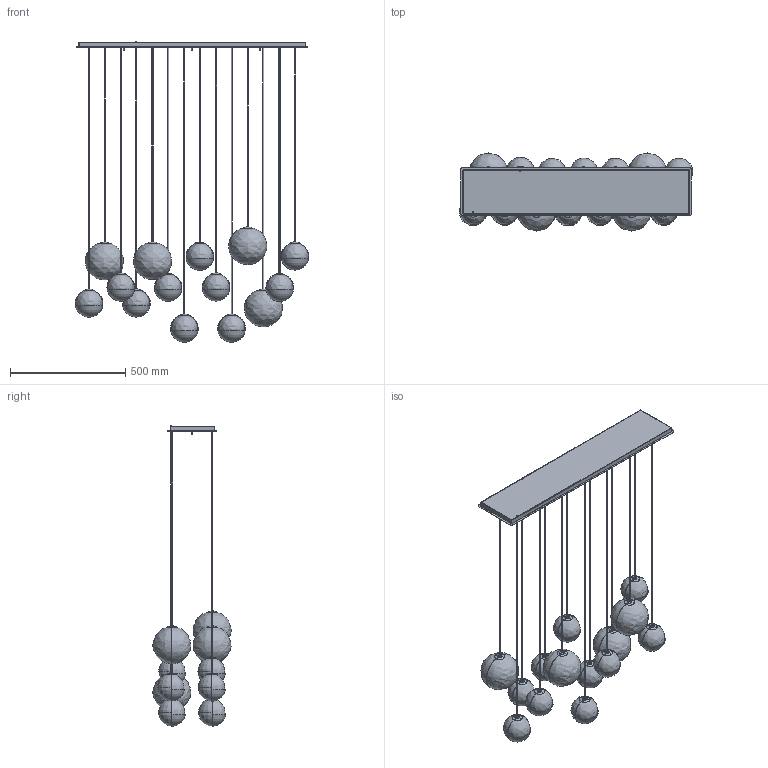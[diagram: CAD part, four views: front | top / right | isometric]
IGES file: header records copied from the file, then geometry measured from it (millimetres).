
Start section: SolidWorks IGES file using analytic representation for surfaces
Global section: file name: C:\Users\anna.bielnik\Desktop\SNOW-BALL-XIV-11408\SNOWBALL XIV pm.IGS; native system: SolidWorks 2023; preprocessor: SolidWorks 2023; author: anna.bielnik; date: 240924.080908; units: millimetre
Bounding box: 1012.3 x 339.28 x 1302.1 mm (x, y, z)
Surface area: 2649994.5 mm2 (no closed solid volume)
Topology: 0 solids, 0 shells, 365 faces, 3232 edges, 3186 vertices
Faces by surface type: bspline 225, revolution 140
